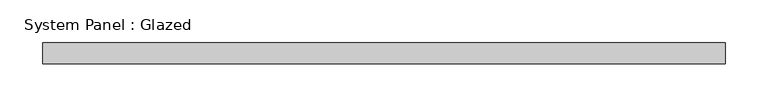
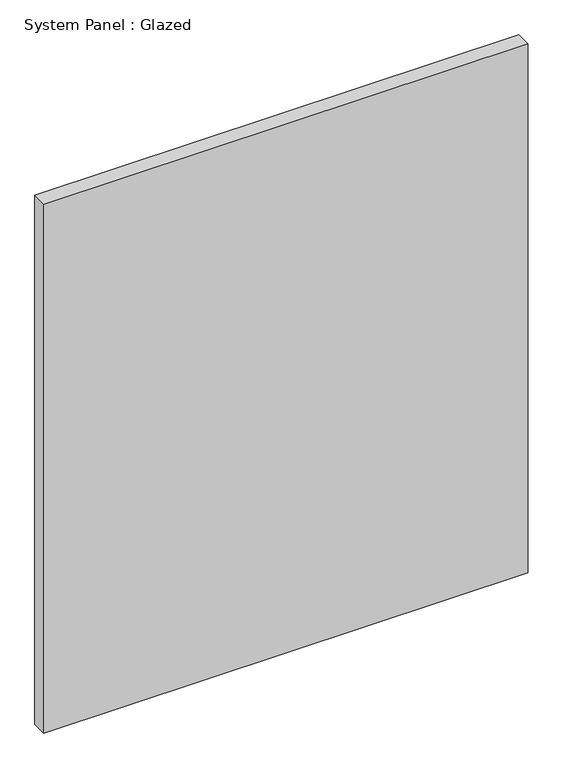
"""IFC4 building model written with IfcOpenShell, lengths in millimetres: plate geometry, System Panel : Glazed."""

from ifc_helpers import new_model, si_unit, origin, origin_with_axes, place, context, project, spatial, polyline, outline, extrude, source, transform, mapped, element, save


def system_panel_glazed_ba248cac(model_context):
    return source(origin(), model_context, "Body", "SweptSolid", [
        extrude(outline(polyline([(400.5766294, 24.5), (-400.5766294, 24.5), (-400.5766294, 49.5), (400.5766294, 49.5), (400.5766294, 24.5)])), origin_with_axes(), (0.0, 0.0, 1.0), 925.0),
    ])


if __name__ == "__main__":
    model = new_model("IFC4")
    model_context = context("Model", 3, world=origin())
    ifc_project = project(units=[si_unit("LENGTHUNIT", "METRE", prefix="MILLI")], contexts=[model_context])
    site = spatial("IfcSite", under=ifc_project)
    building = spatial("IfcBuilding", under=site)
    placement = place(None, origin())
    system_panel_glazed_shape = system_panel_glazed_ba248cac(model_context)
    element("IfcPlate", 1, ObjectType="System Panel : Glazed", at=placement, inside=building, context=model_context, shape_type="MappedRepresentation", body=[
        mapped(system_panel_glazed_shape, transform((0.0, 0.0, 0.0), x_axis=(1.0, 0.0, 0.0), y_axis=(0.0, 1.0, 0.0), z_axis=(0.0, 0.0, 1.0))),
    ])
    save(model, "model.ifc")
